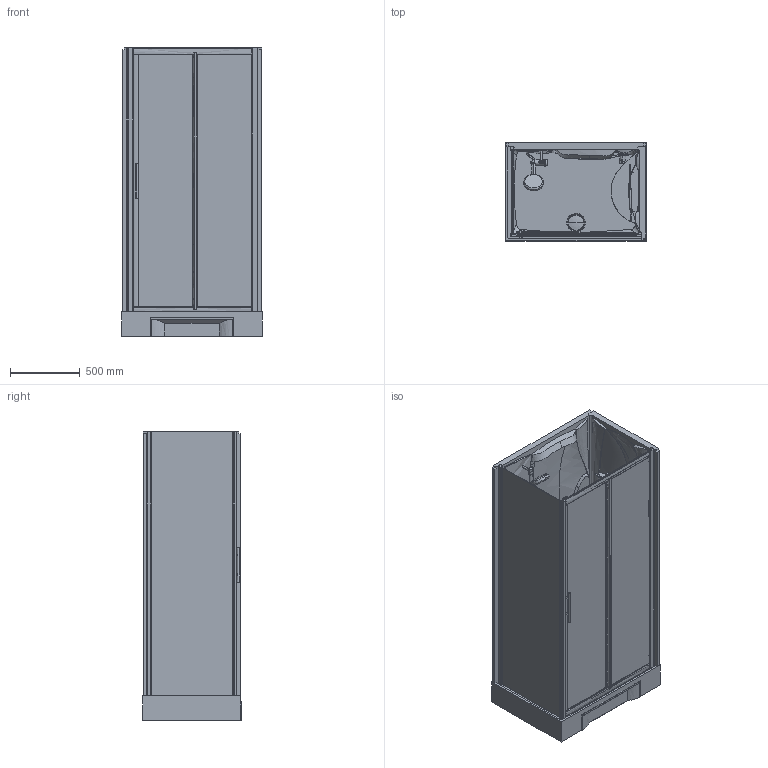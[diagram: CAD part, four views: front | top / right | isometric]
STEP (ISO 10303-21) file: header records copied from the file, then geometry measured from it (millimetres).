
FILE_DESCRIPTION(('STEP AP203'),'2;1');
FILE_NAME('NNH 2P 100 D M.stp','2015-09-08T09:13:29',(''),(''),'2014.1.117','THINKDESIGN','');
FILE_SCHEMA(('CONFIG_CONTROL_DESIGN'));
Length unit declared in the file: millimetre
Products named in the file (1): top
Bounding box: 1004.05 x 707.53 x 2063.06 mm (x, y, z)
Volume: 226480630.8 mm3; surface area: 17403405.8 mm2
Topology: 23 solids, 23 shells, 573 faces, 1519 edges, 988 vertices
Faces by surface type: bspline 291, plane 240, cylinder 42
Entity records: 63994 total; most frequent: CARTESIAN_POINT 52094, ORIENTED_EDGE 2934, DIRECTION 1509, EDGE_CURVE 1467, VERTEX_POINT 952, VECTOR 727, LINE 727, EDGE_LOOP 575
